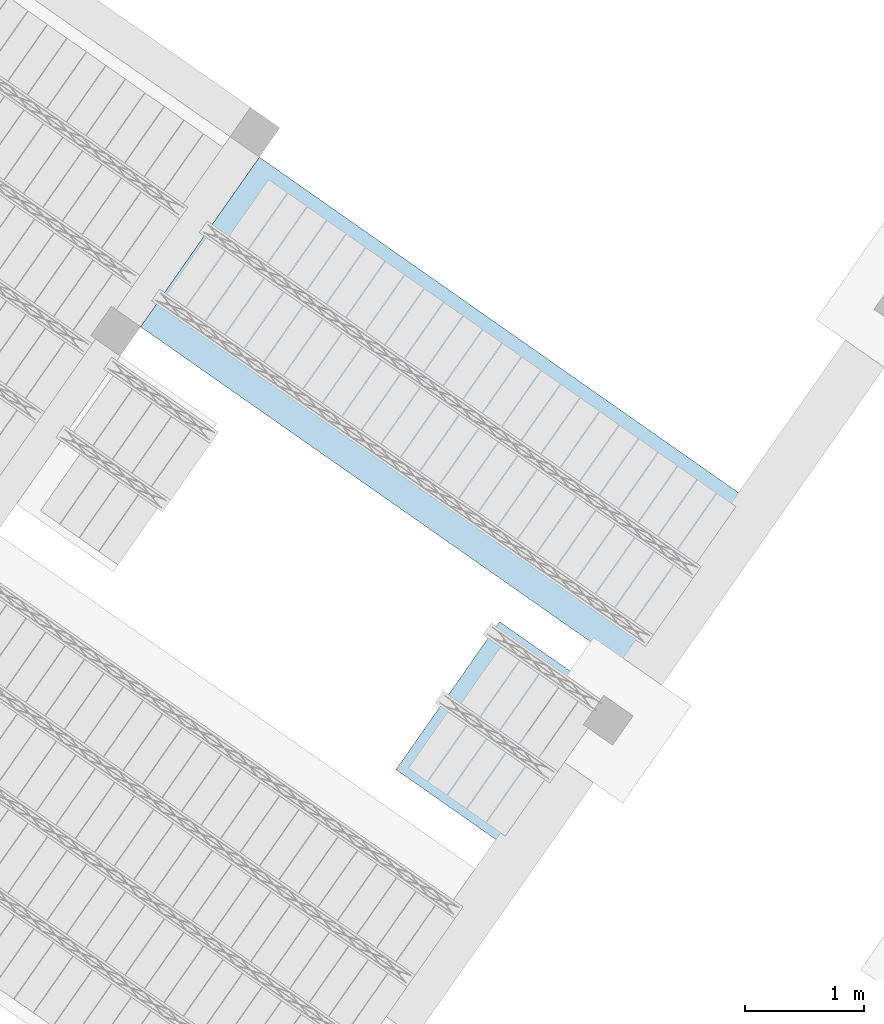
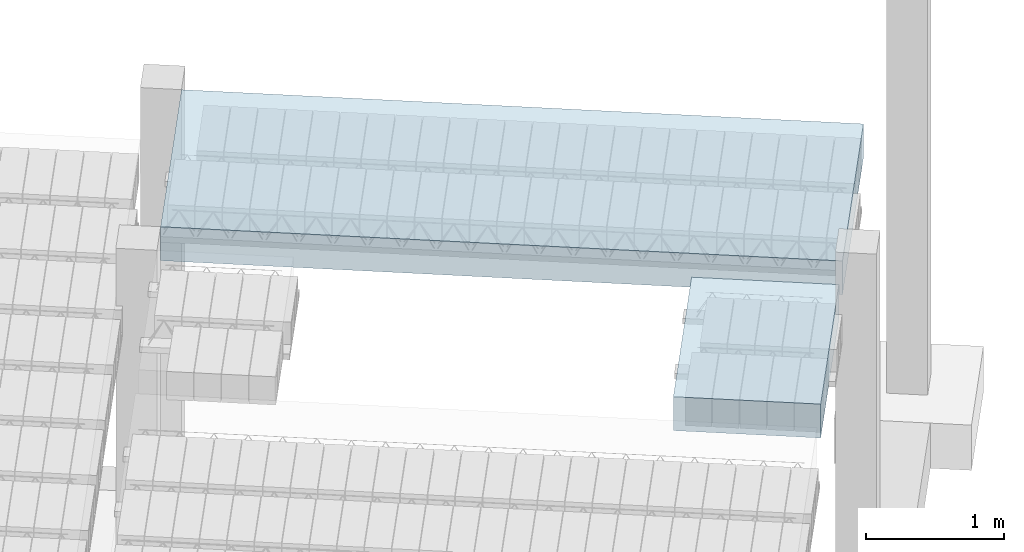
# One storey, part 52 of 80: 2 slabs.
"""IFC2X3 building model written with IfcOpenShell, lengths in metres."""

from ifc_helpers import new_model, entity, si_unit, converted_unit, derived_unit, direction, frame, frame_2d, origin, place, context, subcontext, project, spatial, rectangle, extrude, type_object, element, save


model = new_model("IFC2X3")

# Units and contexts
model_context = context("Model", 3, precision=1e-05, world=origin(), true_north=direction((6.123031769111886e-17, 1.0)))
body_context = subcontext(model_context, "Body", "Model", "MODEL_VIEW")
ifc_project = project(units=[si_unit("LENGTHUNIT", "METRE"), si_unit("AREAUNIT", "SQUARE_METRE"), si_unit("VOLUMEUNIT", "CUBIC_METRE"), converted_unit("PLANEANGLEUNIT", "DEGREE", entity("IfcPlaneAngleMeasure", 0.017453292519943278), si_unit("PLANEANGLEUNIT", "RADIAN"), dimensions=[0, 0, 0, 0, 0, 0, 0]), si_unit("MASSUNIT", "GRAM", prefix="KILO"), derived_unit("MASSDENSITYUNIT", [(si_unit("MASSUNIT", "GRAM", prefix="KILO"), 1), (si_unit("LENGTHUNIT", "METRE"), -3)]), derived_unit("IONCONCENTRATIONUNIT", [(si_unit("MASSUNIT", "GRAM", prefix="KILO"), 1), (si_unit("LENGTHUNIT", "METRE"), -3)]), derived_unit("MOMENTOFINERTIAUNIT", [(si_unit("LENGTHUNIT", "METRE"), 4)]), si_unit("TIMEUNIT", "SECOND"), si_unit("FREQUENCYUNIT", "HERTZ"), si_unit("THERMODYNAMICTEMPERATUREUNIT", "DEGREE_CELSIUS"), derived_unit("THERMALTRANSMITTANCEUNIT", [(si_unit("MASSUNIT", "GRAM", prefix="KILO"), 1), (si_unit("THERMODYNAMICTEMPERATUREUNIT", "KELVIN"), -1), (si_unit("TIMEUNIT", "SECOND"), -3)]), derived_unit("THERMALCONDUCTANCEUNIT", [(si_unit("MASSUNIT", "GRAM", prefix="KILO"), 1), (si_unit("THERMODYNAMICTEMPERATUREUNIT", "KELVIN"), -1), (si_unit("TIMEUNIT", "SECOND"), -3), (si_unit("LENGTHUNIT", "METRE"), 1)]), derived_unit("VOLUMETRICFLOWRATEUNIT", [(si_unit("LENGTHUNIT", "METRE", prefix="DECI"), 3), (si_unit("TIMEUNIT", "SECOND"), -1)]), derived_unit("MASSFLOWRATEUNIT", [(si_unit("MASSUNIT", "GRAM", prefix="KILO"), 1), (si_unit("TIMEUNIT", "SECOND"), -1)]), derived_unit("ROTATIONALFREQUENCYUNIT", [(si_unit("TIMEUNIT", "SECOND"), -1)]), si_unit("ELECTRICCURRENTUNIT", "AMPERE"), si_unit("ELECTRICVOLTAGEUNIT", "VOLT"), si_unit("POWERUNIT", "WATT"), si_unit("FORCEUNIT", "NEWTON", prefix="KILO"), si_unit("ILLUMINANCEUNIT", "LUX"), si_unit("LUMINOUSFLUXUNIT", "LUMEN"), si_unit("LUMINOUSINTENSITYUNIT", "CANDELA"), si_unit("ENERGYUNIT", "JOULE"), derived_unit("USERDEFINED", [(si_unit("MASSUNIT", "GRAM", prefix="KILO"), -1), (si_unit("LENGTHUNIT", "METRE"), -2), (si_unit("TIMEUNIT", "SECOND"), 3), (si_unit("LUMINOUSFLUXUNIT", "LUMEN"), 1)]), derived_unit("USERDEFINED", [(si_unit("MASSUNIT", "GRAM", prefix="KILO"), 1), (si_unit("TIMEUNIT", "SECOND"), -3), (si_unit("LENGTHUNIT", "METRE"), 3), (si_unit("ELECTRICCURRENTUNIT", "AMPERE"), -2)]), derived_unit("SOUNDPOWERUNIT", [(si_unit("MASSUNIT", "GRAM", prefix="KILO"), 1), (si_unit("TIMEUNIT", "SECOND"), -3), (si_unit("LENGTHUNIT", "METRE"), 2)]), derived_unit("SOUNDPRESSUREUNIT", [(si_unit("MASSUNIT", "GRAM", prefix="KILO"), 1), (si_unit("LENGTHUNIT", "METRE"), -1), (si_unit("TIMEUNIT", "SECOND"), -2)]), derived_unit("LINEARVELOCITYUNIT", [(si_unit("LENGTHUNIT", "METRE"), 1), (si_unit("TIMEUNIT", "SECOND"), -1)]), si_unit("PRESSUREUNIT", "PASCAL"), derived_unit("USERDEFINED", [(si_unit("MASSUNIT", "GRAM", prefix="KILO"), 1), (si_unit("LENGTHUNIT", "METRE"), -2), (si_unit("TIMEUNIT", "SECOND"), -2)]), derived_unit("LINEARFORCEUNIT", [(si_unit("MASSUNIT", "GRAM", prefix="KILO"), 1), (si_unit("TIMEUNIT", "SECOND"), -2)]), derived_unit("PLANARFORCEUNIT", [(si_unit("MASSUNIT", "GRAM", prefix="KILO"), 1), (si_unit("LENGTHUNIT", "METRE"), -1), (si_unit("TIMEUNIT", "SECOND"), -2)]), derived_unit("SPECIFICHEATCAPACITYUNIT", [(si_unit("THERMODYNAMICTEMPERATUREUNIT", "KELVIN"), -1), (si_unit("LENGTHUNIT", "METRE"), 2), (si_unit("TIMEUNIT", "SECOND"), -2)]), derived_unit("HEATFLUXDENSITYUNIT", [(si_unit("MASSUNIT", "GRAM", prefix="KILO"), 1), (si_unit("TIMEUNIT", "SECOND"), -3)]), derived_unit("HEATINGVALUEUNIT", [(si_unit("LENGTHUNIT", "METRE"), 2), (si_unit("TIMEUNIT", "SECOND"), -2)]), derived_unit("VAPORPERMEABILITYUNIT", [(si_unit("LENGTHUNIT", "METRE"), -1), (si_unit("TIMEUNIT", "SECOND"), 1)]), derived_unit("DYNAMICVISCOSITYUNIT", [(si_unit("MASSUNIT", "GRAM", prefix="KILO"), 1), (si_unit("TIMEUNIT", "SECOND"), -1), (si_unit("LENGTHUNIT", "METRE"), -1)]), derived_unit("THERMALEXPANSIONCOEFFICIENTUNIT", [(si_unit("THERMODYNAMICTEMPERATUREUNIT", "KELVIN"), -1)]), derived_unit("MODULUSOFELASTICITYUNIT", [(si_unit("MASSUNIT", "GRAM", prefix="KILO"), 1), (si_unit("LENGTHUNIT", "METRE"), -1), (si_unit("TIMEUNIT", "SECOND"), -2)]), derived_unit("ISOTHERMALMOISTURECAPACITYUNIT", [(si_unit("MASSUNIT", "GRAM", prefix="KILO"), -1), (si_unit("LENGTHUNIT", "METRE"), 3)]), derived_unit("MOISTUREDIFFUSIVITYUNIT", [(si_unit("TIMEUNIT", "SECOND"), -1), (si_unit("LENGTHUNIT", "METRE"), 2)]), derived_unit("MASSPERLENGTHUNIT", [(si_unit("MASSUNIT", "GRAM", prefix="KILO"), 1), (si_unit("LENGTHUNIT", "METRE"), -1)]), derived_unit("THERMALRESISTANCEUNIT", [(si_unit("MASSUNIT", "GRAM", prefix="KILO"), -1), (si_unit("TIMEUNIT", "SECOND"), 3), (si_unit("THERMODYNAMICTEMPERATUREUNIT", "KELVIN"), 1)]), derived_unit("ACCELERATIONUNIT", [(si_unit("LENGTHUNIT", "METRE"), 1), (si_unit("TIMEUNIT", "SECOND"), -2)]), derived_unit("ANGULARVELOCITYUNIT", [(si_unit("TIMEUNIT", "SECOND"), -1), (si_unit("PLANEANGLEUNIT", "RADIAN"), 1)]), derived_unit("LINEARSTIFFNESSUNIT", [(si_unit("MASSUNIT", "GRAM", prefix="KILO"), 1), (si_unit("TIMEUNIT", "SECOND"), -2)]), derived_unit("WARPINGCONSTANTUNIT", [(si_unit("LENGTHUNIT", "METRE"), 6)]), derived_unit("LINEARMOMENTUNIT", [(si_unit("MASSUNIT", "GRAM", prefix="KILO"), 1), (si_unit("LENGTHUNIT", "METRE"), 1), (si_unit("TIMEUNIT", "SECOND"), -2)]), derived_unit("TORQUEUNIT", [(si_unit("MASSUNIT", "GRAM", prefix="KILO"), 1), (si_unit("LENGTHUNIT", "METRE"), 2), (si_unit("TIMEUNIT", "SECOND"), -2)])], contexts=[model_context])

# Site, building, storey
site_placement = place(None, origin())
site = spatial("IfcSite", under=ifc_project, at=site_placement, Name="Default", CompositionType="ELEMENT")
building_placement = place(site_placement, origin())
building = spatial("IfcBuilding", under=site, at=building_placement, CompositionType="ELEMENT")
storey_placement = place(building_placement, frame((0.0, 0.0, 95.94)))
storey = spatial("IfcBuildingStorey", under=building, at=storey_placement, Name="PB", CompositionType="ELEMENT", Elevation=95.94)

# Slabs
slab_type = type_object("IfcSlabType", Name="Forma directa:DirectShapeType 1092", PredefinedType="FLOOR")
slab_1_placement = place(storey_placement, origin())
element("IfcSlab", 1, at=slab_1_placement, inside=storey, type_object=slab_type, Name="Forma directa:DirectShapeType 1092", ObjectType="Forma directa:DirectShapeType 1092", PredefinedType="FLOOR", context=body_context, shape_type="SweptSolid", body=[
    extrude(rectangle(XDim=1.0728195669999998, YDim=1.5174682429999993, at=frame_2d((-0.076629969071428, -0.2641139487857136), x_axis=(1.0, 0.0))), frame((9.273849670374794, 4.328095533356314, 3.279999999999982), z_axis=(0.0, 0.0, 1.0), x_axis=(0.8191520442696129, -0.5735764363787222, 0.0)), (0.0, 0.0, 1.0), 0.3000000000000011),
])
slab_2_placement = place(storey_placement, origin())
element("IfcSlab", 2, at=slab_2_placement, inside=storey, type_object=slab_type, Name="Forma directa:DirectShapeType 1092", ObjectType="Forma directa:DirectShapeType 1092", PredefinedType="FLOOR", context=body_context, shape_type="SweptSolid", body=[
    extrude(rectangle(XDim=4.965554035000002, YDim=1.7400317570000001, at=frame_2d((-1.3322676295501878e-15, -9.43689570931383e-16), x_axis=(1.0, 0.0))), frame((8.571503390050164, 6.852029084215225, 3.2799999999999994), z_axis=(0.0, 0.0, 1.0), x_axis=(0.8191520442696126, -0.5735764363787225, 0.0)), (0.0, 0.0, 1.0), 0.3000000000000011),
])

save(model, "model.ifc")
